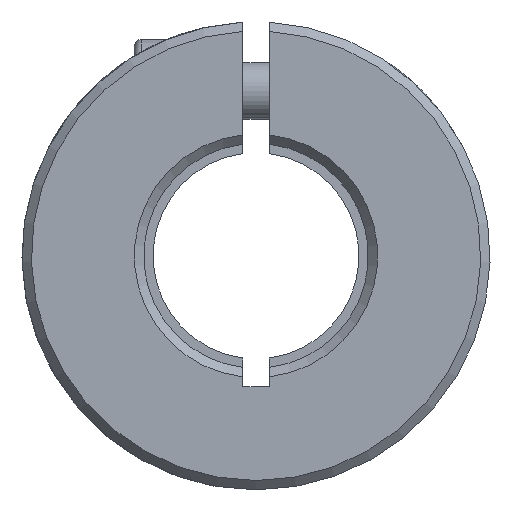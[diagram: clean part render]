
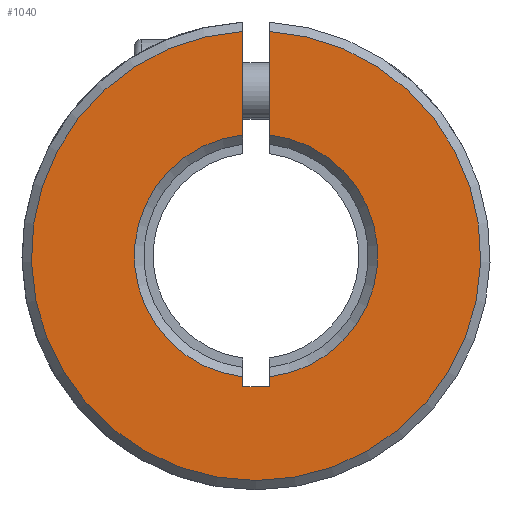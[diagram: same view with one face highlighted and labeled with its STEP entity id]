
A CAD part, front view. The second image highlights one B-rep face of the part: STEP entity #1040.
In plain terms, the highlighted planar face has unit normal (0, -1, 0).
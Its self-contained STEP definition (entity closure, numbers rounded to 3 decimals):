
#10 = VERTEX_POINT ( 'NONE', #3294 ) ;
#12 = ORIENTED_EDGE ( 'NONE', *, *, #4019, .F. ) ;
#49 = VERTEX_POINT ( 'NONE', #2483 ) ;
#129 = VECTOR ( 'NONE', #317, 1000. ) ;
#164 = DIRECTION ( 'NONE',  ( 0., 0., 1. ) ) ;
#317 = DIRECTION ( 'NONE',  ( 1., 0., 0. ) ) ;
#532 = VERTEX_POINT ( 'NONE', #3013 ) ;
#568 = CARTESIAN_POINT ( 'NONE',  ( -0.7, 0.25, -7. ) ) ;
#571 = CARTESIAN_POINT ( 'NONE',  ( 0.7, 0.25, -7. ) ) ;
#618 = EDGE_CURVE ( 'NONE', #3510, #49, #3045, .T. ) ;
#730 = AXIS2_PLACEMENT_3D ( 'NONE', #3257, #5223, #3661 ) ;
#775 = CARTESIAN_POINT ( 'NONE',  ( 0.7, 0.25, -7. ) ) ;
#843 = CARTESIAN_POINT ( 'NONE',  ( 0.7, 0.25, 6.462 ) ) ;
#896 = DIRECTION ( 'NONE',  ( 0., 0., 1. ) ) ;
#985 = ORIENTED_EDGE ( 'NONE', *, *, #618, .F. ) ;
#990 = LINE ( 'NONE', #571, #1772 ) ;
#1017 = DIRECTION ( 'NONE',  ( 0., 0., -1. ) ) ;
#1040 = ADVANCED_FACE ( 'NONE', ( #1197 ), #4160, .F. ) ;
#1126 = VERTEX_POINT ( 'NONE', #4109 ) ;
#1147 = DIRECTION ( 'NONE',  ( 0., 0., 1. ) ) ;
#1172 = EDGE_CURVE ( 'NONE', #3510, #532, #4996, .T. ) ;
#1197 = FACE_OUTER_BOUND ( 'NONE', #1667, .T. ) ;
#1282 = CARTESIAN_POINT ( 'NONE',  ( 0., 0.25, 0. ) ) ;
#1295 = CARTESIAN_POINT ( 'NONE',  ( 0.7, 0.25, -6.462 ) ) ;
#1667 = EDGE_LOOP ( 'NONE', ( #2239, #2606, #3605, #12, #985, #2770, #4139, #2161 ) ) ;
#1772 = VECTOR ( 'NONE', #164, 1000. ) ;
#1818 = DIRECTION ( 'NONE',  ( 0., 0., 1. ) ) ;
#2032 = DIRECTION ( 'NONE',  ( 0., 0., -1. ) ) ;
#2084 = CARTESIAN_POINT ( 'NONE',  ( -0.7, 0.25, -7. ) ) ;
#2161 = ORIENTED_EDGE ( 'NONE', *, *, #4132, .T. ) ;
#2173 = VERTEX_POINT ( 'NONE', #843 ) ;
#2188 = LINE ( 'NONE', #4610, #5371 ) ;
#2239 = ORIENTED_EDGE ( 'NONE', *, *, #3559, .F. ) ;
#2327 = DIRECTION ( 'NONE',  ( 0., 1., 0. ) ) ;
#2483 = CARTESIAN_POINT ( 'NONE',  ( -0.7, 0.25, -7. ) ) ;
#2527 = VERTEX_POINT ( 'NONE', #3789 ) ;
#2606 = ORIENTED_EDGE ( 'NONE', *, *, #3905, .T. ) ;
#2770 = ORIENTED_EDGE ( 'NONE', *, *, #1172, .T. ) ;
#2935 = LINE ( 'NONE', #2084, #5361 ) ;
#3013 = CARTESIAN_POINT ( 'NONE',  ( -0.7, 0.25, 6.462 ) ) ;
#3045 = LINE ( 'NONE', #568, #5175 ) ;
#3257 = CARTESIAN_POINT ( 'NONE',  ( 0., 0.25, 0. ) ) ;
#3294 = CARTESIAN_POINT ( 'NONE',  ( -0.7, 0.25, 11.98 ) ) ;
#3510 = VERTEX_POINT ( 'NONE', #5075 ) ;
#3559 = EDGE_CURVE ( 'NONE', #2173, #2527, #2188, .T. ) ;
#3605 = ORIENTED_EDGE ( 'NONE', *, *, #3825, .F. ) ;
#3658 = CARTESIAN_POINT ( 'NONE',  ( 12.5, 0.25, -50. ) ) ;
#3661 = DIRECTION ( 'NONE',  ( 0., 0., 1. ) ) ;
#3779 = VERTEX_POINT ( 'NONE', #1295 ) ;
#3789 = CARTESIAN_POINT ( 'NONE',  ( 0.7, 0.25, 11.98 ) ) ;
#3825 = EDGE_CURVE ( 'NONE', #1126, #3779, #990, .T. ) ;
#3849 = CARTESIAN_POINT ( 'NONE',  ( 0., 0.25, 0. ) ) ;
#3875 = CIRCLE ( 'NONE', #4742, 12. ) ;
#3905 = EDGE_CURVE ( 'NONE', #2173, #3779, #4415, .T. ) ;
#4019 = EDGE_CURVE ( 'NONE', #49, #1126, #4604, .T. ) ;
#4109 = CARTESIAN_POINT ( 'NONE',  ( 0.7, 0.25, -7. ) ) ;
#4132 = EDGE_CURVE ( 'NONE', #10, #2527, #3875, .T. ) ;
#4139 = ORIENTED_EDGE ( 'NONE', *, *, #4926, .F. ) ;
#4160 = PLANE ( 'NONE',  #4478 ) ;
#4415 = CIRCLE ( 'NONE', #730, 6.5 ) ;
#4478 = AXIS2_PLACEMENT_3D ( 'NONE', #3658, #4503, #1147 ) ;
#4503 = DIRECTION ( 'NONE',  ( 0., 1., 0. ) ) ;
#4604 = LINE ( 'NONE', #775, #129 ) ;
#4610 = CARTESIAN_POINT ( 'NONE',  ( 0.7, 0.25, -7. ) ) ;
#4637 = DIRECTION ( 'NONE',  ( 0., 0., 1. ) ) ;
#4650 = AXIS2_PLACEMENT_3D ( 'NONE', #1282, #2327, #1818 ) ;
#4742 = AXIS2_PLACEMENT_3D ( 'NONE', #3849, #5068, #896 ) ;
#4926 = EDGE_CURVE ( 'NONE', #10, #532, #2935, .T. ) ;
#4996 = CIRCLE ( 'NONE', #4650, 6.5 ) ;
#5068 = DIRECTION ( 'NONE',  ( 0., -1., 0. ) ) ;
#5075 = CARTESIAN_POINT ( 'NONE',  ( -0.7, 0.25, -6.462 ) ) ;
#5175 = VECTOR ( 'NONE', #1017, 1000. ) ;
#5223 = DIRECTION ( 'NONE',  ( 0., 1., 0. ) ) ;
#5361 = VECTOR ( 'NONE', #2032, 1000. ) ;
#5371 = VECTOR ( 'NONE', #4637, 1000. ) ;
